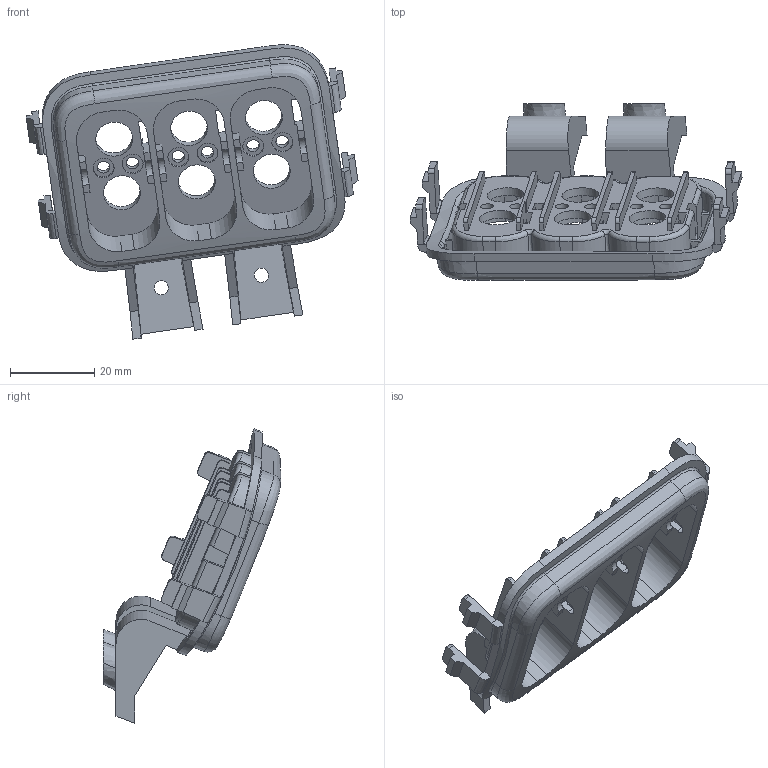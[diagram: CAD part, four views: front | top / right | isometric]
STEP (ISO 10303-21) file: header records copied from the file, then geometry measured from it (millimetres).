
FILE_DESCRIPTION(('CATIA V5 STEP Exchange','CAx-IF Rec.Pracs.--- Model Styling and Organization---1.4--- 2014-01-23'),'2;1');
FILE_NAME('C:\Users\luhaitao\Desktop\塑料件平台项目\塑料件样件清单\06.stp','2025-04-28T01:08:32+00:00',('none'),('none'),'CATIA Version 5-6 Release 2017','CATIA V5 STEP AP214','none');
FILE_SCHEMA(('AUTOMOTIVE_DESIGN { 1 0 10303 214 1 1 1 1 }'));
Length unit declared in the file: millimetre
Products named in the file (1): 06
Bounding box: 79.03 x 42.19 x 70.11 mm (x, y, z)
Volume: 15170.6 mm3; surface area: 18883.1 mm2
Topology: 1 solids, 1 shells, 460 faces, 1330 edges, 873 vertices
Faces by surface type: plane 202, cylinder 119, bspline 101, extrusion 22, torus 16
Entity records: 23850 total; most frequent: CARTESIAN_POINT 13500, ORIENTED_EDGE 2660, EDGE_CURVE 1330, DIRECTION 1255, VERTEX_POINT 873, VECTOR 703, LINE 681, B_SPLINE_CURVE_WITH_KNOTS 509
